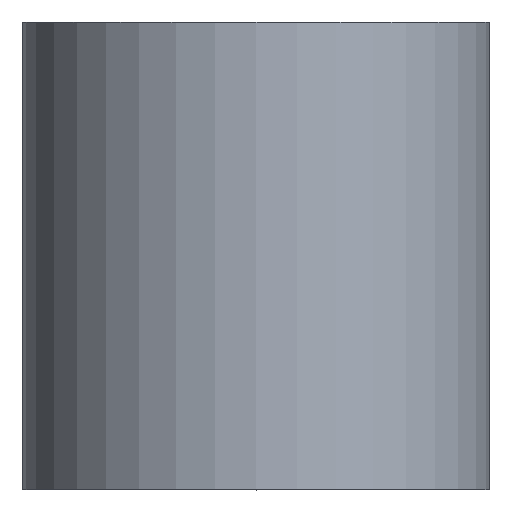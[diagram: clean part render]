
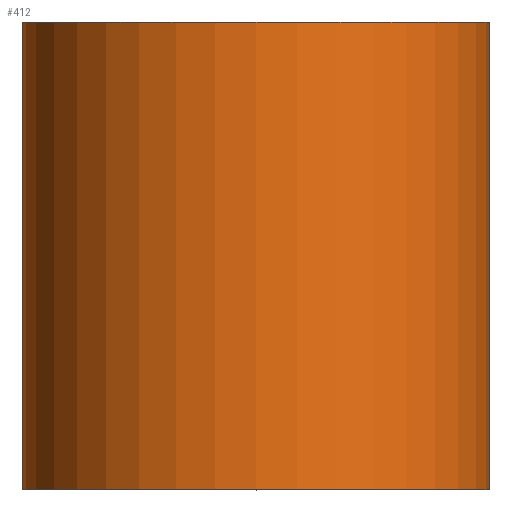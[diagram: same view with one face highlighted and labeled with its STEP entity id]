
A CAD part, top view. The second image highlights one B-rep face of the part: STEP entity #412.
In plain terms, the highlighted cylindrical face has radius 25 mm (diameter 50 mm), a partial arc.
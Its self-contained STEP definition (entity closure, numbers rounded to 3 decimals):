
#16 = DIRECTION ( 'NONE',  ( 0., 1., 0. ) ) ;
#35 = ORIENTED_EDGE ( 'NONE', *, *, #612, .T. ) ;
#56 = CARTESIAN_POINT ( 'NONE',  ( 25., 25., 0. ) ) ;
#66 = CARTESIAN_POINT ( 'NONE',  ( -25., 0., 0. ) ) ;
#83 = FACE_OUTER_BOUND ( 'NONE', #640, .T. ) ;
#117 = CARTESIAN_POINT ( 'NONE',  ( 25., -25., 0. ) ) ;
#145 = DIRECTION ( 'NONE',  ( 0., 1., 0. ) ) ;
#147 = VERTEX_POINT ( 'NONE', #117 ) ;
#167 = DIRECTION ( 'NONE',  ( -1., 0., 0. ) ) ;
#170 = VECTOR ( 'NONE', #145, 1000. ) ;
#208 = CARTESIAN_POINT ( 'NONE',  ( 0., -25., 0. ) ) ;
#211 = VERTEX_POINT ( 'NONE', #585 ) ;
#220 = DIRECTION ( 'NONE',  ( -1., 0., 0. ) ) ;
#341 = ORIENTED_EDGE ( 'NONE', *, *, #686, .F. ) ;
#360 = LINE ( 'NONE', #438, #861 ) ;
#408 = ORIENTED_EDGE ( 'NONE', *, *, #629, .F. ) ;
#412 = ADVANCED_FACE ( 'NONE', ( #83 ), #694, .T. ) ;
#438 = CARTESIAN_POINT ( 'NONE',  ( 25., 0., 0. ) ) ;
#494 = AXIS2_PLACEMENT_3D ( 'NONE', #208, #519, #860 ) ;
#519 = DIRECTION ( 'NONE',  ( 0., 1., 0. ) ) ;
#564 = VERTEX_POINT ( 'NONE', #56 ) ;
#568 = EDGE_CURVE ( 'NONE', #211, #147, #682, .T. ) ;
#584 = LINE ( 'NONE', #66, #170 ) ;
#585 = CARTESIAN_POINT ( 'NONE',  ( -25., -25., 0. ) ) ;
#586 = AXIS2_PLACEMENT_3D ( 'NONE', #755, #16, #167 ) ;
#612 = EDGE_CURVE ( 'NONE', #147, #564, #360, .T. ) ;
#623 = VERTEX_POINT ( 'NONE', #803 ) ;
#629 = EDGE_CURVE ( 'NONE', #211, #623, #584, .T. ) ;
#640 = EDGE_LOOP ( 'NONE', ( #898, #35, #341, #408 ) ) ;
#655 = DIRECTION ( 'NONE',  ( 0., 1., 0. ) ) ;
#682 = CIRCLE ( 'NONE', #494, 25. ) ;
#686 = EDGE_CURVE ( 'NONE', #623, #564, #940, .T. ) ;
#694 = CYLINDRICAL_SURFACE ( 'NONE', #586, 25. ) ;
#740 = DIRECTION ( 'NONE',  ( 0., 1., 0. ) ) ;
#748 = AXIS2_PLACEMENT_3D ( 'NONE', #871, #655, #220 ) ;
#755 = CARTESIAN_POINT ( 'NONE',  ( 0., 0., 0. ) ) ;
#803 = CARTESIAN_POINT ( 'NONE',  ( -25., 25., 0. ) ) ;
#860 = DIRECTION ( 'NONE',  ( -1., 0., 0. ) ) ;
#861 = VECTOR ( 'NONE', #740, 1000. ) ;
#871 = CARTESIAN_POINT ( 'NONE',  ( 0., 25., 0. ) ) ;
#898 = ORIENTED_EDGE ( 'NONE', *, *, #568, .T. ) ;
#940 = CIRCLE ( 'NONE', #748, 25. ) ;
